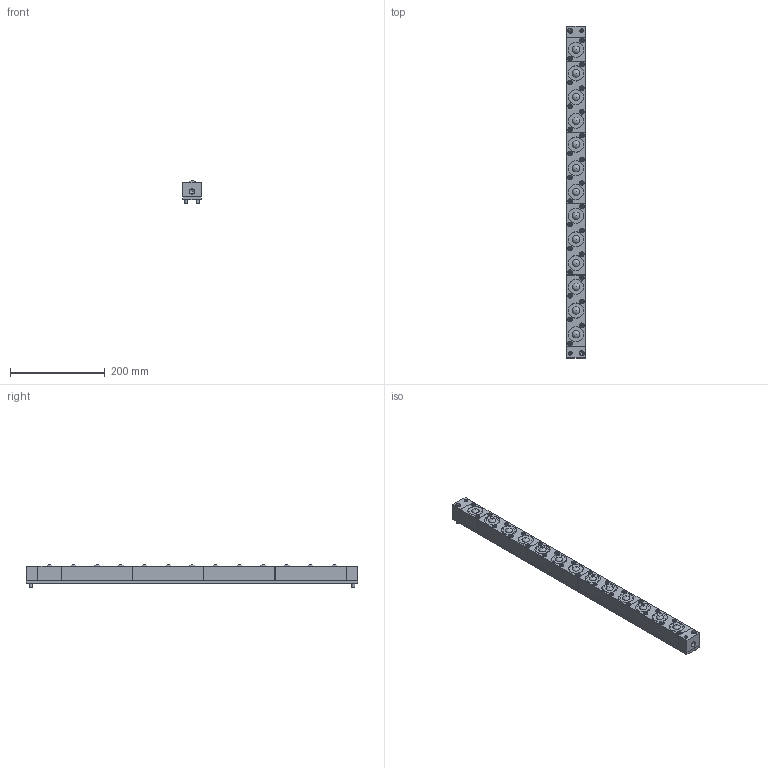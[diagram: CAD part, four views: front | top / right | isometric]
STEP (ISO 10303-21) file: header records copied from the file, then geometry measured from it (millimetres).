
FILE_DESCRIPTION(/* description */ (''),/* implementation_level */ '2;1');
FILE_NAME(/* name */ 'Z:\34-Tei\01-web 3Dデータ\40-ISR-38\X2\578B\X0\\ISR-38-700-A.stp',/* time_stamp */ '2015-01-15T17:56:32+09:00',/* author */ ('yamaki'),/* organization */ (''),/* preprocessor_version */ 'ST-DEVELOPER v15.6',/* originating_system */ 'Autodesk Inventor 2015',/* authorisation */ '');
FILE_SCHEMA (('AUTOMOTIVE_DESIGN { 1 0 10303 214 3 1 1 }'));
Length unit declared in the file: millimetre
Products named in the file (7): 4100AT-01-700; 4100AT-02; 4100AT-00; 4100AT-03; RSW10601; HCB10635; 4100AA
Bounding box: 38 x 700 x 48 mm (x, y, z)
Volume: 924434.1 mm3; surface area: 290077.9 mm2
Topology: 23 solids, 23 shells, 675 faces, 1401 edges, 898 vertices
Faces by surface type: plane 436, cylinder 134, cone 60, torus 32, sphere 13
Full cylindrical faces by diameter (mm): 6 x2, 6.5 x2, 7 x2, 8 x2, 8.5 x26, 9.5 x26, 10 x2, 10.5 x1, 11 x2, 25.7 x13, 31.5 x13, 32 x13, 35 x26
Entity records: 6143 total; most frequent: CARTESIAN_POINT 1122, DIRECTION 984, ORIENTED_EDGE 846, EDGE_CURVE 423, AXIS2_PLACEMENT_3D 363, EDGE_LOOP 340, VERTEX_POINT 303, LINE 258
